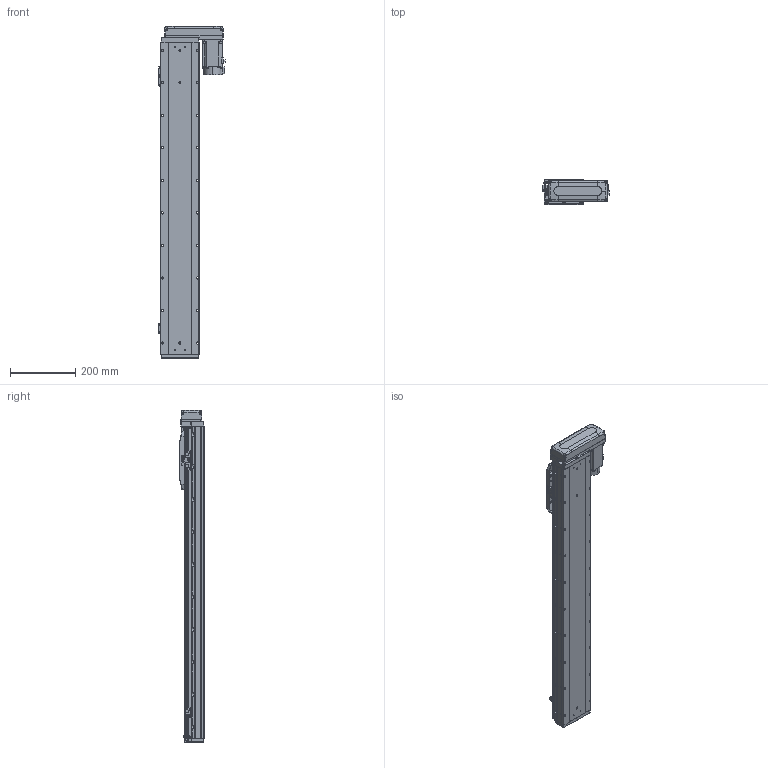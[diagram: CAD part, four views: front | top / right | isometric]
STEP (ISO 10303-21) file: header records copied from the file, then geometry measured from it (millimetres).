
FILE_DESCRIPTION (( 'STEP AP203' ), '1' );
FILE_NAME ('GTH12-750-BL-M40-C4.step', '2025-07-16T03:42:09', ( '' ), ( '' ), 'SwSTEP 2.0', 'SolidWorks 2023', '' );
FILE_SCHEMA (( 'CONFIG_CONTROL_DESIGN' ));
Length unit declared in the file: millimetre
Products named in the file (17): GTH120-027-1_GTH120-027-2; 感应器总成右; GTH120-001_750; GBT 70.1-M3×6; GBT 70.1-M5×16; GBT 70.3-M3×8; GTH12-750-BL-M40-C4; hg-kn43j_-s100_; GTH80-028; 感应器总成左; GTH120-006; GTH120-004; CTHA86-033_M40B; GTH120-013; BTH-M3X5X6; GTH80-022; GTH120-003
Assembly tree (38 placements, depth 2):
  GTH12-750-BL-M40-C4
    GTH120-001_750
    GTH120-003
    GTH120-006
    GTH120-004
    GTH120-013
    GBT 70.1-M3×6  x2
    GBT 70.1-M5×16  x10
    GBT 70.3-M3×8  x4
    GTH80-022
    GTH80-028  x2
    BTH-M3X5X6  x8
    hg-kn43j_-s100_
    CTHA86-033_M40B
    GTH120-027-1_GTH120-027-2
    感应器总成右  x2
    感应器总成左
Bounding box: 203.5 x 76 x 1020.5 mm (x, y, z)
Volume: 7506146.2 mm3; surface area: 678344.2 mm2
Topology: 55 solids, 55 shells, 2428 faces, 5711 edges, 3519 vertices
Faces by surface type: plane 1236, cylinder 708, cone 308, torus 162, sphere 8, bspline 6
Entity records: 53501 total; most frequent: CARTESIAN_POINT 9156, DIRECTION 9066, ORIENTED_EDGE 8414, EDGE_CURVE 4207, AXIS2_PLACEMENT_3D 3162, VECTOR 2742, LINE 2742, VERTEX_POINT 2652
